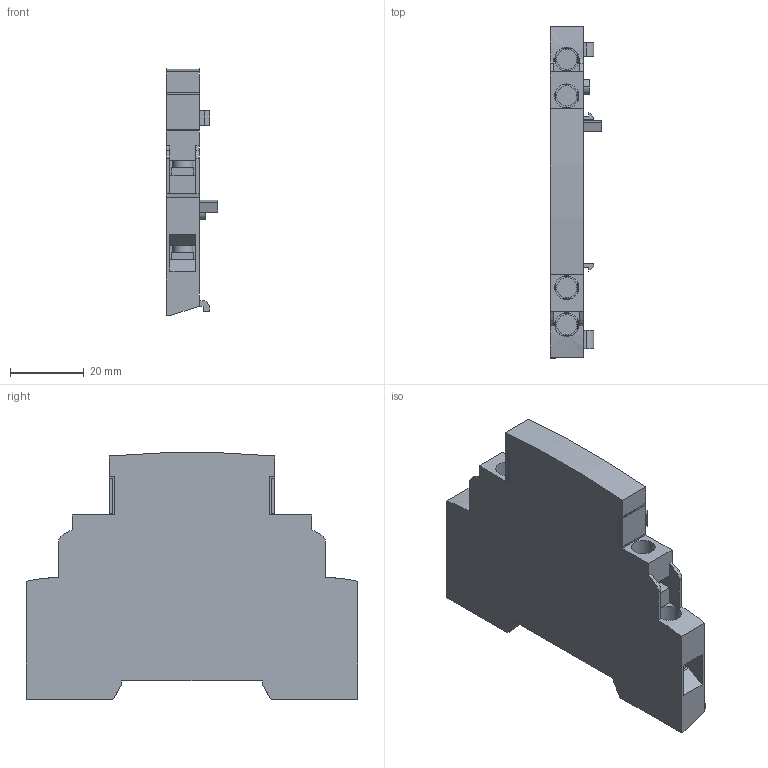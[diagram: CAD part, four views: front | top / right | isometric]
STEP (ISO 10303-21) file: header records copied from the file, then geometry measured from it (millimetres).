
FILE_DESCRIPTION (( 'STEP AP214' ), '1' );
FILE_NAME ('OMRON-J73MN_11S.step', '2011-02-14T18:06:38', ( 'sysAdmin' ), ( 'SolidWorks' ), 'SwSTEP 2.0', 'SolidWorks 2011', '' );
FILE_SCHEMA (( 'AUTOMOTIVE_DESIGN' ));
Length unit declared in the file: millimetre
Products named in the file (1): OMRON-J73MN_11S
Bounding box: 14 x 90 x 66.89 mm (x, y, z)
Volume: 38811.1 mm3; surface area: 14640.4 mm2
Topology: 1 solids, 1 shells, 174 faces, 478 edges, 316 vertices
Faces by surface type: plane 147, cylinder 27
Entity records: 5914 total; most frequent: CARTESIAN_POINT 1031, ORIENTED_EDGE 956, DIRECTION 882, EDGE_CURVE 478, VECTOR 420, LINE 420, VERTEX_POINT 316, AXIS2_PLACEMENT_3D 231
